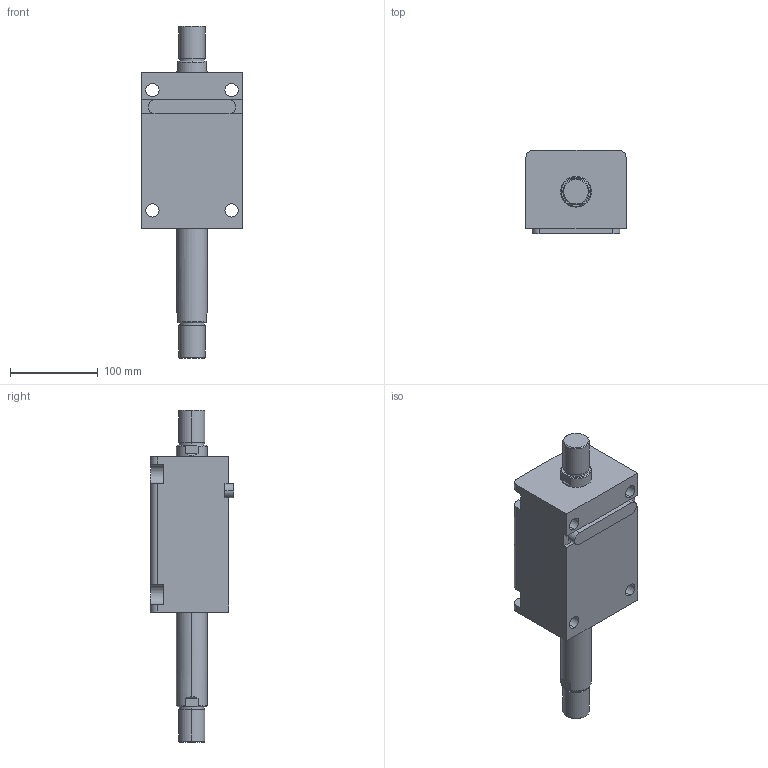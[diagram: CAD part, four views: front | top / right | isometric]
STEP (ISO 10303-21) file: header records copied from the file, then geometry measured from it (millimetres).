
FILE_DESCRIPTION (( 'STEP AP203' ), '1' );
FILE_NAME ('HTB-LW63-95W.STEP', '2019-10-09T08:30:32', ( '微软用户' ), ( '微软中国' ), 'SwSTEP 2.0', 'SolidWorks 2012', '' );
FILE_SCHEMA (( 'CONFIG_CONTROL_DESIGN' ));
Length unit declared in the file: millimetre
Products named in the file (4): HTB-LW63-95W; HTB-LA63-瑩; HTB-LW63-95W活塞杆; HTB-LW63-95掛极
Assembly tree (3 placements, depth 2):
  HTB-LW63-95W
    HTB-LW63-95掛极
    HTB-LW63-95W活塞杆
    HTB-LA63-瑩
Bounding box: 114 x 94.5 x 378 mm (x, y, z)
Volume: 1683092.9 mm3; surface area: 193074.2 mm2
Topology: 3 solids, 3 shells, 109 faces, 265 edges, 174 vertices
Faces by surface type: plane 48, cylinder 45, cone 12, torus 4
Entity records: 3679 total; most frequent: CARTESIAN_POINT 610, DIRECTION 593, ORIENTED_EDGE 530, EDGE_CURVE 265, AXIS2_PLACEMENT_3D 229, VERTEX_POINT 174, VECTOR 135, LINE 135
